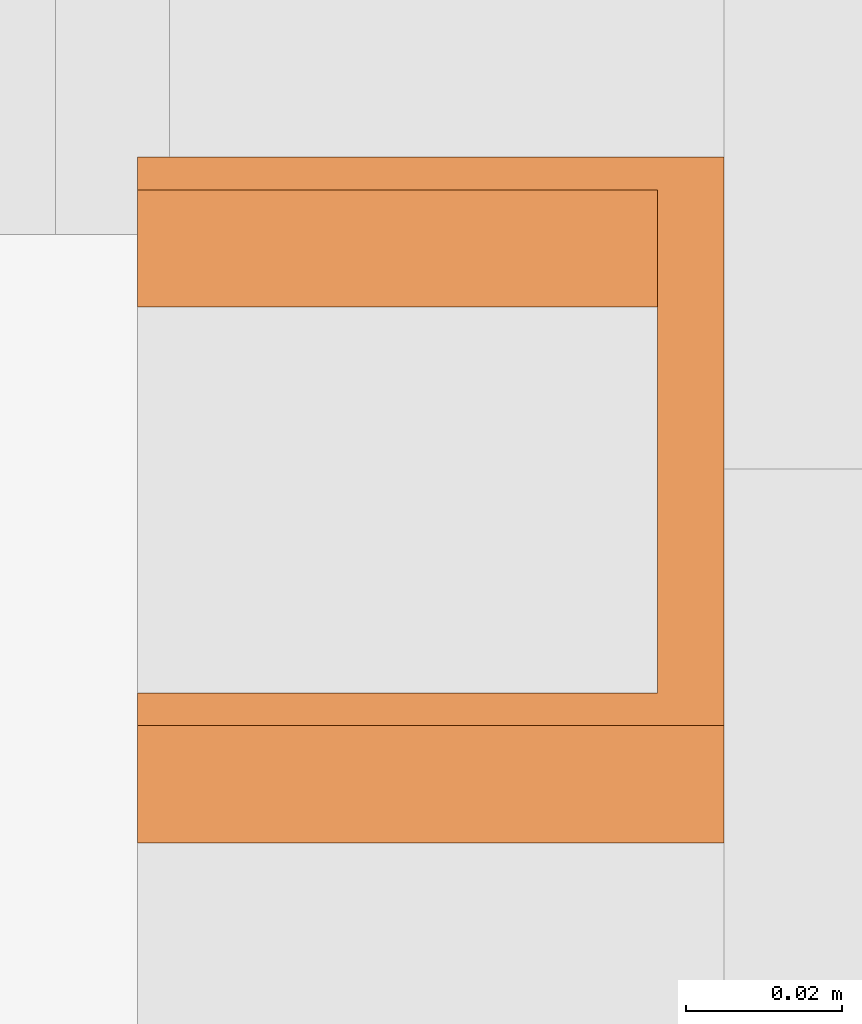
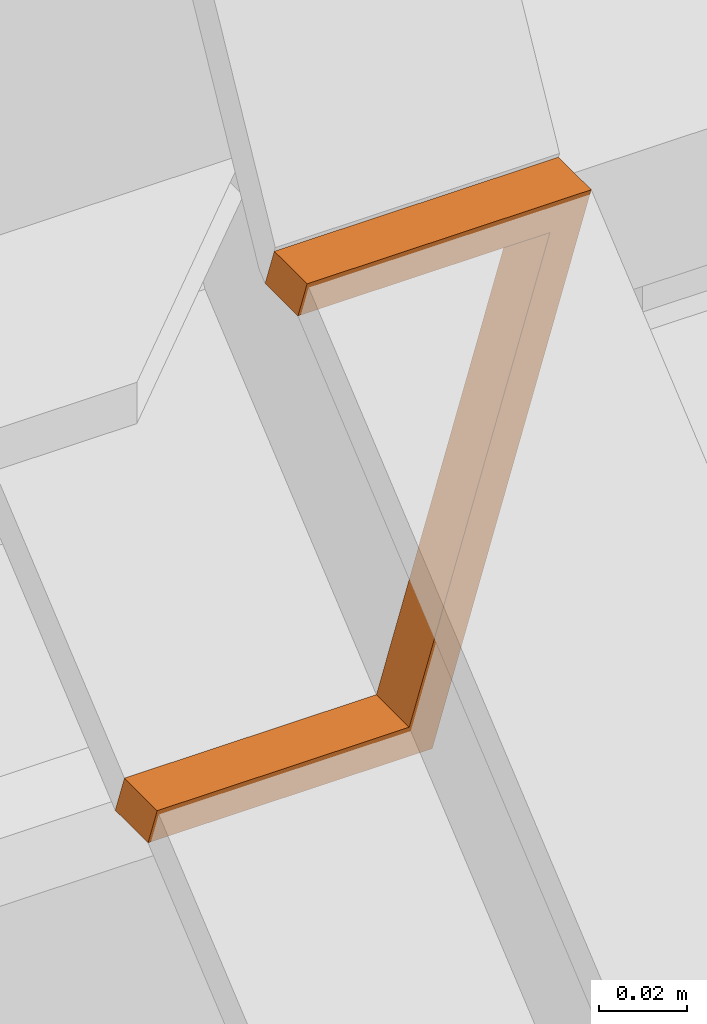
# One storey, part 116 of 117: 1 proxy, 1 element without a shape of its own.
"""IFC2X3 building model written with IfcOpenShell, lengths in millimetres."""

from ifc_helpers import new_model, entity, si_unit, converted_unit, derived_unit, money_unit, direction, frame, origin_with_axes, place, context, subcontext, project, spatial, faceted_brep, material, type_object, element, aggregate, save


model = new_model("IFC2X3")

# Units and contexts
model_context = context("Model", 3, precision=0.01, world=origin_with_axes(), true_north=direction((0.0, 1.0)))
body_context = subcontext(model_context, "Body", "Model", "MODEL_VIEW")
ifc_project = project(units=[si_unit("LENGTHUNIT", "METRE", prefix="MILLI"), si_unit("AREAUNIT", "SQUARE_METRE"), si_unit("VOLUMEUNIT", "CUBIC_METRE"), converted_unit("PLANEANGLEUNIT", "DEGREE", entity("IfcPlaneAngleMeasure", 0.0174532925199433), si_unit("PLANEANGLEUNIT", "RADIAN"), dimensions=[0, 0, 0, 0, 0, 0, 0]), money_unit("EUR"), converted_unit("TIMEUNIT", "Year", entity("IfcTimeMeasure", 31557600.0), si_unit("TIMEUNIT", "SECOND"), dimensions=[0, 0, 1, 0, 0, 0, 0]), si_unit("MASSUNIT", "GRAM", prefix="KILO"), si_unit("THERMODYNAMICTEMPERATUREUNIT", "DEGREE_CELSIUS"), si_unit("LUMINOUSINTENSITYUNIT", "LUMEN"), si_unit("ENERGYUNIT", "JOULE", prefix="MEGA"), derived_unit("THERMALCONDUCTANCEUNIT", [(si_unit("POWERUNIT", "WATT"), 1), (si_unit("LENGTHUNIT", "METRE"), -1), (si_unit("THERMODYNAMICTEMPERATUREUNIT", "KELVIN"), -1)]), derived_unit("SPECIFICHEATCAPACITYUNIT", [(si_unit("ENERGYUNIT", "JOULE"), 1), (si_unit("MASSUNIT", "GRAM", prefix="KILO"), -1), (si_unit("THERMODYNAMICTEMPERATUREUNIT", "KELVIN"), -1)]), derived_unit("MASSDENSITYUNIT", [(si_unit("MASSUNIT", "GRAM", prefix="KILO"), 1), (si_unit("VOLUMEUNIT", "CUBIC_METRE"), -1)])], contexts=[model_context])

# Site, building, storey
site_placement = place(None, origin_with_axes())
site = spatial("IfcSite", under=ifc_project, at=site_placement, Name="Site", CompositionType="ELEMENT")
building_placement = place(site_placement, origin_with_axes())
building = spatial("IfcBuilding", under=site, at=building_placement, Name="Naam gebouw", CompositionType="ELEMENT")
storey_placement = place(building_placement, frame((0.0, 0.0, 4150.0), z_axis=(0.0, 0.0, 1.0), x_axis=(1.0, 0.0, 0.0)))
storey = spatial("IfcBuildingStorey", under=building, at=storey_placement, Name="1e verdieping N", CompositionType="ELEMENT", Elevation=4150.0)

# Stair, proxy
stair_placement = place(storey_placement, frame((1624.999999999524, 21575.82979156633, 0.0), z_axis=(0.0, 0.0, 1.0), x_axis=(1.0, 0.0, 0.0)))
stair = element("IfcStair", 1, at=stair_placement, inside=storey, Name="_Trap-x", ShapeType="NOTDEFINED")
ifc_material = material(Name="Metaal - Staal C")
building_element_proxy_type = type_object("IfcBuildingElementProxyType", Name="IfcBuildingElementProxy", PredefinedType="NOTDEFINED")
proxy_placement = place(stair_placement, origin_with_axes())
proxy = element("IfcBuildingElementProxy", 2, at=proxy_placement, type_object=building_element_proxy_type, material=ifc_material, Name="_Trapconstructie-x", context=body_context, shape_type="Brep", body=[
    faceted_brep([(-975.0, 1399.887414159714, 1089.473684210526), (-899.9999999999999, 1399.887414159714, 1089.473684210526), (-899.9999999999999, 1384.887414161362, 1089.473684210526), (-975.0, 1384.887414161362, 1089.473684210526), (-899.9999999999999, 1327.21167802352, 1289.473684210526), (-975.0, 1395.708559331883, 1100.973684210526), (-908.5, 1395.708559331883, 1100.973684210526), (-908.5, 1331.390532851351, 1277.973684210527), (-975.0, 1331.390532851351, 1277.973684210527), (-975.0, 1327.21167802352, 1289.473684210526), (-899.9999999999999, 1312.211678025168, 1289.473684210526), (-908.5, 1316.390532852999, 1277.973684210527), (-908.5, 1380.708559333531, 1100.973684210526), (-975.0, 1380.708559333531, 1100.973684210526), (-975.0, 1312.211678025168, 1289.473684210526), (-975.0, 1316.390532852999, 1277.973684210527)], [[[0, 1, 2, 3]], [[4, 1, 0, 5, 6, 7, 8, 9]], [[1, 4, 10, 2]], [[11, 12, 13, 3, 2, 10, 14, 15]], [[5, 0, 3, 13]], [[6, 5, 13, 12]], [[7, 6, 12, 11]], [[8, 7, 11, 15]], [[9, 8, 15, 14]], [[4, 9, 14, 10]]]),
])
aggregate(stair, [proxy])

save(model, "model.ifc")
